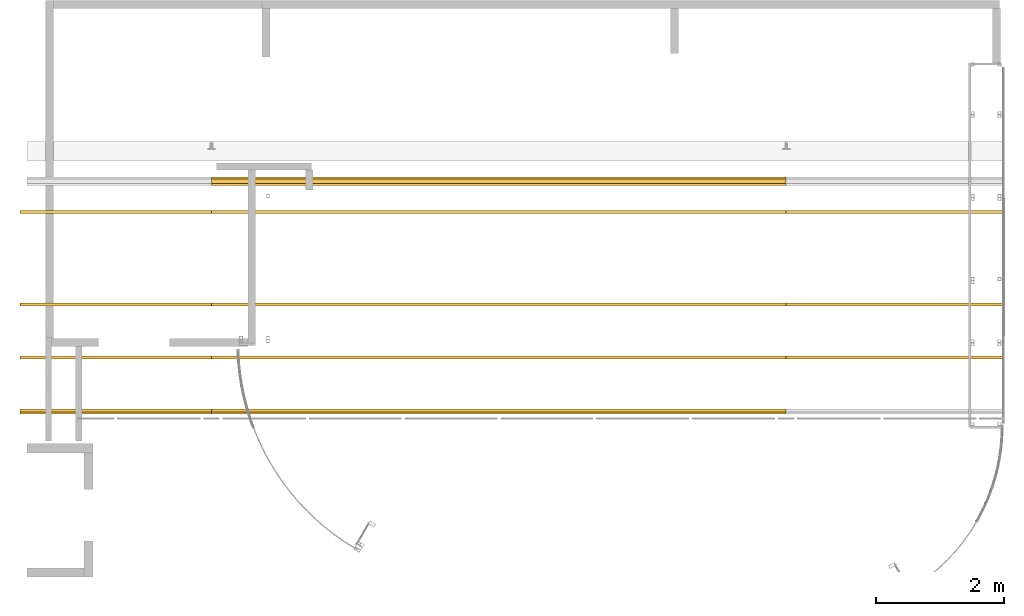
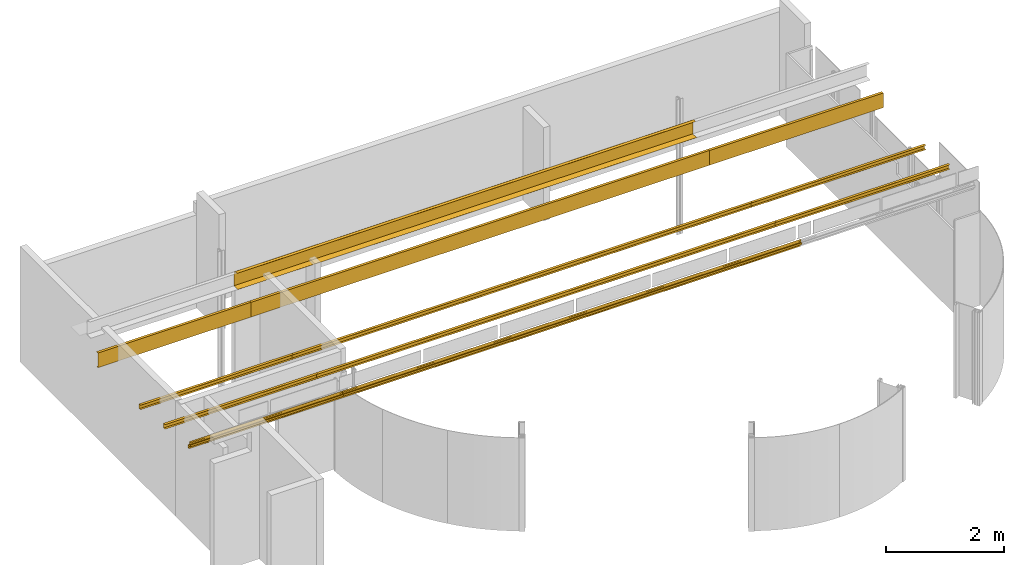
# One storey, part 9 of 11: 12 coverings.
"""IFC2X3 building model written with IfcOpenShell, lengths in millimetres."""

from ifc_helpers import new_model, entity, si_unit, converted_unit, derived_unit, direction, frame, frame_2d, origin_with_axes, origin_2d_with_axis, place, context, subcontext, project, spatial, polyline, rectangle, outline, extrude, faceted_brep, type_object, element, save


model = new_model("IFC2X3")

# Units and contexts
model_context = context("Model", 3, precision=0.01, world=frame((0.0, 4.29681676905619e-09, 0.0)), true_north=direction((4.01073788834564e-13, 1.0)))
plan_context = context("Plan", 3, precision=0.01, world=frame((0.0, 4.29681676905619e-09, 0.0)), true_north=direction((4.01073788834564e-13, 1.0)))
body_context = subcontext(model_context, "Body", "Model", "MODEL_VIEW")
ifc_project = project(units=[converted_unit("PLANEANGLEUNIT", "DEGREE", entity("IfcPositiveLengthMeasure", 0.0174532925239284), si_unit("PLANEANGLEUNIT", "RADIAN"), dimensions=[0, 0, 0, 0, 0, 0, 0]), si_unit("AREAUNIT", "SQUARE_METRE"), si_unit("LENGTHUNIT", "METRE", prefix="MILLI"), si_unit("MASSUNIT", "GRAM", prefix="KILO"), si_unit("POWERUNIT", "WATT"), si_unit("PRESSUREUNIT", "PASCAL"), si_unit("FORCEUNIT", "NEWTON", prefix="KILO"), si_unit("ELECTRICVOLTAGEUNIT", "VOLT"), si_unit("ELECTRICCURRENTUNIT", "AMPERE"), si_unit("THERMODYNAMICTEMPERATUREUNIT", "DEGREE_CELSIUS"), si_unit("TIMEUNIT", "SECOND"), si_unit("VOLUMEUNIT", "CUBIC_METRE"), derived_unit("LINEARVELOCITYUNIT", [(si_unit("LENGTHUNIT", "METRE"), 1), (si_unit("TIMEUNIT", "SECOND"), -1)]), derived_unit("VOLUMETRICFLOWRATEUNIT", [(si_unit("VOLUMEUNIT", "CUBIC_METRE"), 1), (si_unit("TIMEUNIT", "SECOND"), -1)]), derived_unit("THERMALTRANSMITTANCEUNIT", [(si_unit("POWERUNIT", "WATT"), 1), (si_unit("THERMODYNAMICTEMPERATUREUNIT", "KELVIN"), -1), (si_unit("AREAUNIT", "SQUARE_METRE"), -1)]), derived_unit("SOUNDPRESSUREUNIT", [(si_unit("PRESSUREUNIT", "PASCAL"), 1)])], contexts=[model_context, plan_context])

# Site, building, storey
site_placement = place(None, origin_with_axes())
site = spatial("IfcSite", under=ifc_project, at=site_placement, Name="ENGM", CompositionType="ELEMENT")
building_placement = place(site_placement, origin_with_axes())
building = spatial("IfcBuilding", under=site, at=building_placement, Name="TH", CompositionType="ELEMENT")
storey_placement = place(building_placement, frame((0.0, 0.0, 210900.0), z_axis=(0.0, 0.0, 1.0), x_axis=(1.0, 0.0, 0.0)))
storey = spatial("IfcBuildingStorey", under=building, at=storey_placement, Name="Nivå F", CompositionType="ELEMENT", Elevation=210900.0)

# Coverings
covering_type_1 = type_object("IfcCoveringType", Name="A255 - eksisterende beslag mellom himling - pirF_type__A:A255 - eksisterende beslag mellom himling - Type A (100mm sprang)", PredefinedType="NOTDEFINED")
covering_1_placement = place(storey_placement, origin_with_axes())
element("IfcCovering", 1, at=covering_1_placement, inside=storey, type_object=covering_type_1, Name="A255 - eksisterende beslag mellom himling - pirF_type__A:A255 - eksisterende beslag mellom himling - Type A (100mm sprang)", ObjectType="A255 - eksisterende beslag mellom himling - pirF_type__A:A255 - eksisterende beslag mellom himling - Type A (100mm sprang)", PredefinedType="NOTDEFINED", context=body_context, shape_type="SweptSolid", body=[
    extrude(outline(polyline([(-22.7500000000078, -50.5000000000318), (27.2500000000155, -50.5000000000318), (27.2500000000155, -49.5000000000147), (-21.7499999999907, -49.5000000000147), (-21.7499999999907, 49.4999999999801), (17.2499999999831, 49.4999999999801), (17.2499999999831, 50.4999999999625), (-22.7500000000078, 50.4999999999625), (-22.7500000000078, -50.5000000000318)])), frame((895000.000000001, 482597.249999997, 2090.50000000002), z_axis=(1.0, 0.0, 0.0), x_axis=(0.0, -1.0, 0.0)), (0.0, 0.0, 1.0), 3000.00000000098),
])
covering_2_placement = place(storey_placement, origin_with_axes())
element("IfcCovering", 2, at=covering_2_placement, inside=storey, type_object=covering_type_1, Name="A255 - eksisterende beslag mellom himling - pirF_type__A:A255 - eksisterende beslag mellom himling - Type A (100mm sprang)", ObjectType="A255 - eksisterende beslag mellom himling - pirF_type__A:A255 - eksisterende beslag mellom himling - Type A (100mm sprang)", PredefinedType="NOTDEFINED", context=body_context, shape_type="SweptSolid", body=[
    extrude(outline(polyline([(-22.7500000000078, -50.4999999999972), (27.2500000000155, -50.4999999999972), (27.2500000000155, -49.4999999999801), (-21.7499999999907, -49.4999999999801), (-21.7499999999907, 49.5000000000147), (17.2499999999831, 49.5000000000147), (17.2499999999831, 50.4999999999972), (-22.7500000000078, 50.4999999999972), (-22.7500000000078, -50.4999999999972)])), frame((895000.000000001, 481767.249999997, 2190.50000000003), z_axis=(1.0, 0.0, 0.0), x_axis=(0.0, -1.0, 0.0)), (0.0, 0.0, 1.0), 3000.00000000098),
])
covering_3_placement = place(storey_placement, origin_with_axes())
element("IfcCovering", 3, at=covering_3_placement, inside=storey, type_object=covering_type_1, Name="A255 - eksisterende beslag mellom himling - pirF_type__A:A255 - eksisterende beslag mellom himling - Type A (100mm sprang)", ObjectType="A255 - eksisterende beslag mellom himling - pirF_type__A:A255 - eksisterende beslag mellom himling - Type A (100mm sprang)", PredefinedType="NOTDEFINED", context=body_context, shape_type="SweptSolid", body=[
    extrude(outline(polyline([(-22.7500000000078, -50.5000000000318), (27.2500000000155, -50.5000000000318), (27.2500000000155, -49.5000000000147), (-21.7499999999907, -49.5000000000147), (-21.7499999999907, 49.4999999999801), (17.2499999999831, 49.4999999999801), (17.2499999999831, 50.4999999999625), (-22.7500000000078, 50.4999999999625), (-22.7500000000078, -50.5000000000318)])), frame((898000.0, 482597.249999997, 2090.50000000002), z_axis=(1.0, 0.0, 0.0), x_axis=(0.0, -1.0, 0.0)), (0.0, 0.0, 1.0), 8999.99999999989),
])
covering_4_placement = place(storey_placement, origin_with_axes())
element("IfcCovering", 4, at=covering_4_placement, inside=storey, type_object=covering_type_1, Name="A255 - eksisterende beslag mellom himling - pirF_type__A:A255 - eksisterende beslag mellom himling - Type A (100mm sprang)", ObjectType="A255 - eksisterende beslag mellom himling - pirF_type__A:A255 - eksisterende beslag mellom himling - Type A (100mm sprang)", PredefinedType="NOTDEFINED", context=body_context, shape_type="SweptSolid", body=[
    extrude(outline(polyline([(-22.7499999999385, -50.4999999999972), (27.2500000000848, -50.4999999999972), (27.2500000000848, -49.4999999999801), (-21.7499999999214, -49.4999999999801), (-21.7499999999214, 49.5000000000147), (17.2500000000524, 49.5000000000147), (17.2500000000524, 50.4999999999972), (-22.7499999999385, 50.4999999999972), (-22.7499999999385, -50.4999999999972)])), frame((898000.0, 481767.249999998, 2190.50000000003), z_axis=(1.0, 0.0, 0.0), x_axis=(0.0, -1.0, 0.0)), (0.0, 0.0, 1.0), 8999.99999999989),
])
covering_5_placement = place(storey_placement, origin_with_axes())
element("IfcCovering", 5, at=covering_5_placement, inside=storey, type_object=covering_type_1, Name="A255 - eksisterende beslag mellom himling - pirF_type__A:A255 - eksisterende beslag mellom himling - Type A (100mm sprang)", ObjectType="A255 - eksisterende beslag mellom himling - pirF_type__A:A255 - eksisterende beslag mellom himling - Type A (100mm sprang)", PredefinedType="NOTDEFINED", context=body_context, shape_type="Brep", body=[
    faceted_brep([(910410.5848418, 482619.999999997, 2040.00000000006), (910410.5848418, 482619.999999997, 2141.00000000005), (907000.0, 482619.999999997, 2141.00000000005), (907000.0, 482619.999999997, 2040.00000000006), (910410.5848418, 482569.999999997, 2141.00000000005), (907000.0, 482569.999999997, 2141.00000000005), (910410.5848418, 482569.999999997, 2140.00000000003), (907000.0, 482569.999999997, 2140.00000000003), (910410.5848418, 482618.999999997, 2140.00000000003), (907000.0, 482618.999999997, 2140.00000000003), (910410.5848418, 482618.999999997, 2041.00000000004), (907000.0, 482618.999999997, 2041.00000000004), (910410.5848418, 482579.999999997, 2041.00000000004), (907000.0, 482579.999999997, 2041.00000000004), (910410.5848418, 482579.999999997, 2040.00000000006), (907000.0, 482579.999999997, 2040.00000000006)], [[[0, 1, 2, 3]], [[1, 4, 5, 2]], [[4, 6, 7, 5]], [[6, 8, 9, 7]], [[8, 10, 11, 9]], [[10, 12, 13, 11]], [[12, 14, 15, 13]], [[14, 0, 3, 15]], [[3, 2, 5, 7, 9, 11, 13, 15]], [[14, 12, 10, 8, 6, 4, 1, 0]]], orient=[[False], [False], [False], [False], [False], [False], [False], [False], [False], [False]]),
])
covering_6_placement = place(storey_placement, origin_with_axes())
element("IfcCovering", 6, at=covering_6_placement, inside=storey, type_object=covering_type_1, Name="A255 - eksisterende beslag mellom himling - pirF_type__A:A255 - eksisterende beslag mellom himling - Type A (100mm sprang)", ObjectType="A255 - eksisterende beslag mellom himling - pirF_type__A:A255 - eksisterende beslag mellom himling - Type A (100mm sprang)", PredefinedType="NOTDEFINED", context=body_context, shape_type="Brep", body=[
    faceted_brep([(910410.5848418, 481789.999999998, 2140.00000000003), (910410.5848418, 481789.999999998, 2241.00000000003), (907000.0, 481789.999999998, 2241.00000000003), (907000.0, 481789.999999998, 2140.00000000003), (910410.5848418, 481739.999999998, 2241.00000000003), (907000.0, 481739.999999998, 2241.00000000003), (910410.5848418, 481739.999999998, 2240.00000000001), (907000.0, 481739.999999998, 2240.00000000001), (910410.5848418, 481788.999999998, 2240.00000000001), (907000.0, 481788.999999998, 2240.00000000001), (910410.5848418, 481788.999999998, 2141.00000000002), (907000.0, 481788.999999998, 2141.00000000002), (910410.5848418, 481749.999999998, 2141.00000000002), (907000.0, 481749.999999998, 2141.00000000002), (910410.5848418, 481749.999999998, 2140.00000000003), (907000.0, 481749.999999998, 2140.00000000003)], [[[0, 1, 2, 3]], [[1, 4, 5, 2]], [[4, 6, 7, 5]], [[6, 8, 9, 7]], [[8, 10, 11, 9]], [[10, 12, 13, 11]], [[12, 14, 15, 13]], [[14, 0, 3, 15]], [[3, 2, 5, 7, 9, 11, 13, 15]], [[14, 12, 10, 8, 6, 4, 1, 0]]], orient=[[False], [False], [False], [False], [False], [False], [False], [False], [False], [False]]),
])
covering_type_2 = type_object("IfcCoveringType", Name="A255 - eksisterende beslag mellom himling - pirF_type__B:A255 - eksisterende beslag mellom himling - Type B (305mm sprang)", PredefinedType="NOTDEFINED")
covering_7_placement = place(storey_placement, origin_with_axes())
element("IfcCovering", 7, at=covering_7_placement, inside=storey, type_object=covering_type_2, Name="A255 - eksisterende beslag mellom himling - pirF_type__B:A255 - eksisterende beslag mellom himling - Type B (305mm sprang)", ObjectType="A255 - eksisterende beslag mellom himling - pirF_type__B:A255 - eksisterende beslag mellom himling - Type B (305mm sprang)", PredefinedType="NOTDEFINED", context=body_context, shape_type="SweptSolid", body=[
    extrude(outline(polyline([(-27.2500000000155, -153.0), (22.7500000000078, -153.0), (22.7500000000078, 153.0), (-17.2499999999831, 153.0), (-17.2499999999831, 152.0), (21.7499999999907, 152.0), (21.7499999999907, -152.0), (-27.2500000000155, -152.0), (-27.2500000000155, -153.0)])), frame((895000.000000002, 484042.749999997, 2193.0), z_axis=(1.0, 0.0, 0.0), x_axis=(0.0, -1.0, 0.0)), (0.0, 0.0, 1.0), 3000.00000000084),
])
covering_8_placement = place(storey_placement, origin_with_axes())
element("IfcCovering", 8, at=covering_8_placement, inside=storey, type_object=covering_type_2, Name="A255 - eksisterende beslag mellom himling - pirF_type__B:A255 - eksisterende beslag mellom himling - Type B (305mm sprang)", ObjectType="A255 - eksisterende beslag mellom himling - pirF_type__B:A255 - eksisterende beslag mellom himling - Type B (305mm sprang)", PredefinedType="NOTDEFINED", context=body_context, shape_type="SweptSolid", body=[
    extrude(outline(polyline([(-27.2500000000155, -153.0), (22.7500000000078, -153.0), (22.7500000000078, 153.0), (-17.2499999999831, 153.0), (-17.2499999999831, 152.0), (21.7499999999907, 152.0), (21.7499999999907, -152.0), (-27.2500000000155, -152.0), (-27.2500000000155, -153.0)])), frame((898000.000000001, 484042.749999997, 2193.0), z_axis=(1.0, 0.0, 0.0), x_axis=(0.0, -1.0, 0.0)), (0.0, 0.0, 1.0), 9000.00000000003),
])
covering_9_placement = place(storey_placement, origin_with_axes())
element("IfcCovering", 9, at=covering_9_placement, inside=storey, type_object=covering_type_2, Name="A255 - eksisterende beslag mellom himling - pirF_type__B:A255 - eksisterende beslag mellom himling - Type B (305mm sprang)", ObjectType="A255 - eksisterende beslag mellom himling - pirF_type__B:A255 - eksisterende beslag mellom himling - Type B (305mm sprang)", PredefinedType="NOTDEFINED", context=body_context, shape_type="Brep", body=[
    faceted_brep([(910410.5848418, 484069.999999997, 2345.0), (910410.5848418, 484069.999999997, 2346.0), (907000.0, 484069.999999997, 2346.0), (907000.0, 484069.999999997, 2345.0), (910410.5848418, 484019.999999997, 2346.0), (907000.0, 484019.999999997, 2346.0), (910410.5848418, 484019.999999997, 2040.0), (907000.0, 484019.999999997, 2040.0), (910410.5848418, 484059.999999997, 2040.0), (907000.0, 484059.999999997, 2040.0), (910410.5848418, 484059.999999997, 2041.0), (907000.0, 484059.999999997, 2041.0), (910410.5848418, 484020.999999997, 2041.0), (907000.0, 484020.999999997, 2041.0), (910410.5848418, 484020.999999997, 2345.0), (907000.0, 484020.999999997, 2345.0)], [[[0, 1, 2, 3]], [[1, 4, 5, 2]], [[4, 6, 7, 5]], [[6, 8, 9, 7]], [[8, 10, 11, 9]], [[10, 12, 13, 11]], [[12, 14, 15, 13]], [[14, 0, 3, 15]], [[3, 2, 5, 7, 9, 11, 13, 15]], [[14, 12, 10, 8, 6, 4, 1, 0]]], orient=[[False], [False], [False], [False], [False], [False], [False], [False], [False], [False]]),
])
covering_type_3 = type_object("IfcCoveringType", Name="A255 - eksisterende beslag mellom himling - pirF_type__C:A255 - eksisterende beslag mellom himling - Type C", PredefinedType="NOTDEFINED")
covering_10_placement = place(storey_placement, origin_with_axes())
element("IfcCovering", 10, at=covering_10_placement, inside=storey, type_object=covering_type_3, Name="A255 - eksisterende beslag mellom himling - pirF_type__C:A255 - eksisterende beslag mellom himling - Type C", ObjectType="A255 - eksisterende beslag mellom himling - pirF_type__C:A255 - eksisterende beslag mellom himling - Type C", PredefinedType="NOTDEFINED", context=body_context, shape_type="SweptSolid", body=[
    extrude(outline(polyline([(-39.5999999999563, 112.0), (-39.5999999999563, -178.0), (90.4000000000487, -178.0), (90.4000000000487, -177.0), (-38.6000000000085, -177.0), (-38.6000000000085, 111.0), (-5.59999999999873, 111.0), (-5.59999999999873, 132.0), (-6.59999999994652, 132.0), (-6.59999999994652, 112.0), (-39.5999999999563, 112.0)])), frame((898000.000000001, 484550.399999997, 2522.99999999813), z_axis=(-1.0, 0.0, 0.0), x_axis=(0.0, -1.0, 0.0)), (0.0, 0.0, -1.0), 9000.00000000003),
    extrude(outline(polyline([(-41.6666666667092, -8.0), (-41.6666666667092, -9.0), (21.3333333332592, -9.0), (21.3333333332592, 17.0), (20.3333333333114, 17.0), (20.3333333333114, -8.0), (-41.6666666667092, -8.0)])), frame((898000.0, 484534.666666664, 2650.9999999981), z_axis=(-1.0, 0.0, 0.0), x_axis=(0.0, 1.0, 0.0)), (0.0, 0.0, -1.0), 9000.00000000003),
])
covering_type_4 = type_object("IfcCoveringType", Name="A255 - eksisterende beslag mellom himling - pirF_type__D:A255 - eksisterende beslag mellom himling - Type D", PredefinedType="NOTDEFINED")
covering_11_placement = place(storey_placement, origin_with_axes())
element("IfcCovering", 11, at=covering_11_placement, inside=storey, type_object=covering_type_4, Name="A255 - eksisterende beslag mellom himling - pirF_type__D:A255 - eksisterende beslag mellom himling - Type D", ObjectType="A255 - eksisterende beslag mellom himling - pirF_type__D:A255 - eksisterende beslag mellom himling - Type D", PredefinedType="NOTDEFINED", context=body_context, shape_type="SweptSolid", body=[
    extrude(outline(polyline([(-48.857142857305, 2.0), (-48.857142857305, -59.0), (-7.857142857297, -59.0), (-7.857142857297, -58.0), (-47.8571428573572, -58.0), (-47.8571428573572, 1.0), (32.1428571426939, 1.0), (32.1428571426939, 41.0), (20.1428571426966, 41.0), (20.1428571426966, 33.0), (21.1428571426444, 33.0), (21.1428571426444, 40.0), (31.1428571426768, 40.0), (31.1428571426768, 2.0), (-48.857142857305, 2.0)])), frame((895000.000000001, 480912.14285714, 2299.0), z_axis=(-1.0, 0.0, 0.0), x_axis=(0.0, -1.0, 0.0)), (0.0, 0.0, -1.0), 3000.00000000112),
    extrude(outline(polyline([(-10.7499999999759, -10.5000000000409), (22.2499999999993, -10.5000000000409), (22.2499999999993, -9.50000000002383), (-9.74999999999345, -9.50000000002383), (-9.74999999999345, 9.49999999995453), (-1.74999999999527, 9.49999999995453), (-1.74999999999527, 10.4999999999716), (-10.7499999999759, 10.4999999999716), (-10.7499999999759, -10.5000000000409)])), frame((895000.000000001, 480898.499999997, 2340.75), z_axis=(1.0, 0.0, 0.0), x_axis=(0.0, 0.0, 1.0)), (0.0, 0.0, 1.0), 3000.00000000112),
    extrude(rectangle(XDim=3000.00000000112, YDim=1.0000000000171, at=origin_2d_with_axis()), frame((896500.000000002, 480909.499999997, 2332.0), z_axis=(0.0, 0.0, 1.0), x_axis=(-1.0, 0.0, 0.0)), (0.0, 0.0, 1.0), 63.000000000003),
])
covering_12_placement = place(storey_placement, origin_with_axes())
element("IfcCovering", 12, at=covering_12_placement, inside=storey, type_object=covering_type_4, Name="A255 - eksisterende beslag mellom himling - pirF_type__D:A255 - eksisterende beslag mellom himling - Type D", ObjectType="A255 - eksisterende beslag mellom himling - pirF_type__D:A255 - eksisterende beslag mellom himling - Type D", PredefinedType="NOTDEFINED", context=body_context, shape_type="SweptSolid", body=[
    extrude(outline(polyline([(-48.8571428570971, 2.0), (-48.8571428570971, -59.0), (-7.85714285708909, -59.0), (-7.85714285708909, -58.0), (-47.8571428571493, -58.0), (-47.8571428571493, 1.0), (32.1428571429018, 1.0), (32.1428571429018, 41.0), (20.1428571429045, 41.0), (20.1428571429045, 33.0), (21.1428571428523, 33.0), (21.1428571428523, 40.0), (31.1428571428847, 40.0), (31.1428571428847, 2.0), (-48.8571428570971, 2.0)])), frame((898000.0, 480912.14285714, 2299.0), z_axis=(-1.0, 0.0, 0.0), x_axis=(0.0, -1.0, 0.0)), (0.0, 0.0, -1.0), 9000.00000000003),
    extrude(outline(polyline([(-10.7499999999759, -10.4999999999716), (22.2499999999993, -10.4999999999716), (22.2499999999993, -9.49999999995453), (-9.74999999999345, -9.49999999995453), (-9.74999999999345, 9.50000000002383), (-1.74999999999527, 9.50000000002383), (-1.74999999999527, 10.5000000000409), (-10.7499999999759, 10.5000000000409), (-10.7499999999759, -10.4999999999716)])), frame((898000.0, 480898.499999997, 2340.75), z_axis=(1.0, 0.0, 0.0), x_axis=(0.0, 0.0, 1.0)), (0.0, 0.0, 1.0), 9000.00000000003),
    extrude(rectangle(XDim=9000.00000000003, YDim=0.999999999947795, at=frame_2d((1.38697942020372e-10, 0.0), x_axis=(1.0, 0.0))), frame((902500.0, 480909.499999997, 2332.0), z_axis=(0.0, 0.0, 1.0), x_axis=(-1.0, 0.0, 0.0)), (0.0, 0.0, 1.0), 63.000000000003),
])

save(model, "model.ifc")
